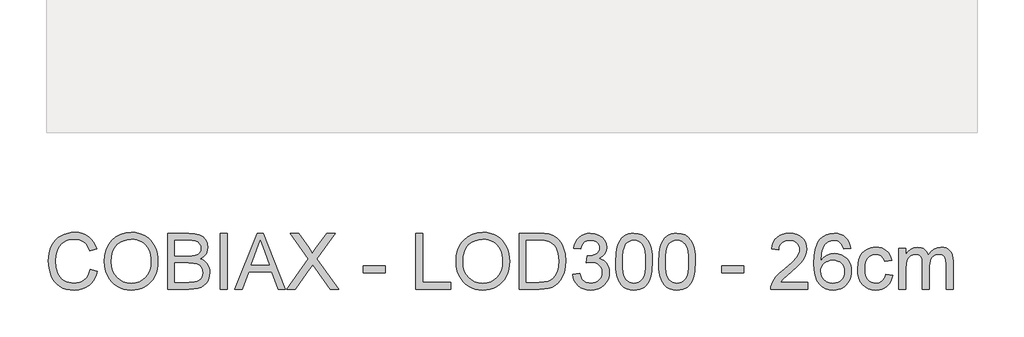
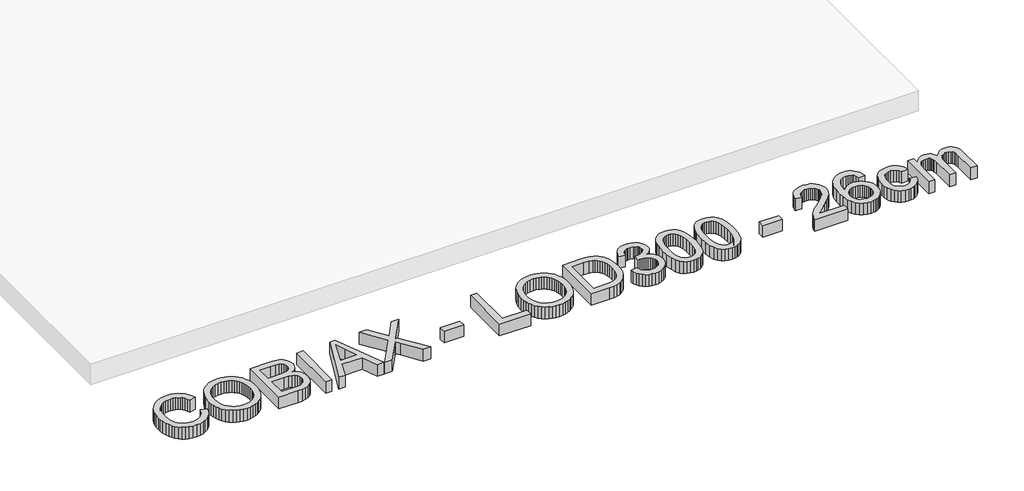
# One storey, part 13 of 18: 1 proxy.
"""IFC4 building model written with IfcOpenShell, lengths in millimetres."""

from ifc_helpers import new_model, si_unit, origin, origin_with_axes, place, context, project, spatial, polyline, outline, extrude, element, save

model = new_model("IFC4")

# Units and contexts
model_context = context("Model", 3, world=origin())
ifc_project = project(units=[si_unit("LENGTHUNIT", "METRE", prefix="MILLI")], contexts=[model_context])

# Site, building, storey
site = spatial("IfcSite", under=ifc_project)
building = spatial("IfcBuilding", under=site)
storey = spatial("IfcBuildingStorey", under=building, Name="COBIAX Slabs", Elevation=0.0)

# Proxy
placement = place(None, origin())
element("IfcBuildingElementProxy", 1, Name="600mm Arial", ObjectType="600mm Arial", at=placement, inside=storey, context=model_context, shape_type="SweptSolid", body=[
    extrude(outline(polyline([(9798.2153953, -6620.9127725), (9873.5576279, -6640.3369419), (9858.64921, -6687.1913125), (9838.7927794, -6728.13198), (9813.9883358, -6763.1589445), (9784.2358795, -6792.2722059), (9750.2067949, -6815.1590645), (9712.5724668, -6831.5068207), (9671.3328952, -6841.3154744), (9626.4880799, -6844.5850256), (9580.5442173, -6842.1110192), (9539.097712, -6834.6889999), (9502.1485641, -6822.3189678), (9469.6967736, -6805.0009229), (9441.2962836, -6782.9923826), (9416.5010371, -6756.5508642), (9395.3110342, -6725.6763677), (9377.7262748, -6690.3688932), (9363.9169044, -6652.155151), (9354.0530684, -6612.5618512), (9348.1347668, -6571.588994), (9346.1619996, -6529.2365793), (9348.3922842, -6483.7939559), (9355.083138, -6441.3495707), (9366.234561, -6401.9034238), (9381.8465531, -6365.4555151), (9401.5696266, -6332.6082514), (9425.0542935, -6303.9640396), (9452.3005538, -6279.5228795), (9483.3084074, -6259.2847713), (9517.0247923, -6243.4152617), (9552.3966461, -6232.0798977), (9589.4239689, -6225.2786793), (9628.1067607, -6223.0116065), (9671.1995379, -6225.9454655), (9710.7146627, -6234.7470422), (9746.6521351, -6249.4163368), (9779.0119551, -6269.9533491), (9807.2606938, -6295.8154534), (9830.8649224, -6326.4600236), (9849.8246407, -6361.8870597), (9864.1398488, -6402.0965618), (9788.7976162, -6420.0492032), (9776.9334219, -6390.420907), (9762.6779946, -6365.1060272), (9746.0313343, -6344.1045638), (9726.993441, -6327.4165168), (9705.4539502, -6314.7015953), (9681.3024972, -6305.6195086), (9654.5390821, -6300.1702565), (9625.1637048, -6298.3538392), (9591.3645465, -6300.3679931), (9560.4532618, -6306.4104549), (9532.4298508, -6316.4812245), (9507.2943135, -6330.5803019), (9485.3639481, -6348.0730908), (9466.9560527, -6368.3249946), (9452.0706275, -6391.3360134), (9440.7076724, -6417.1061472), (9426.3050923, -6472.2516583), (9421.5042322, -6529.0894265), (9427.1880091, -6598.6927), (9434.2927301, -6629.9626696), (9444.2393395, -6658.8781944), (9457.1887858, -6684.8644589), (9473.3020171, -6707.3466473), (9492.5790337, -6726.3247597), (9515.0198354, -6741.7987961), (9539.5345719, -6753.8055448), (9565.0333926, -6762.3817938), (9591.5162978, -6767.5275432), (9618.9832872, -6769.242793), (9651.7385804, -6766.9067423), (9681.8727143, -6759.8985903), (9709.385689, -6748.218337), (9734.2775045, -6731.8659823), (9755.9595496, -6710.9151027), (9773.8432131, -6685.4392745), (9787.928495, -6655.4384978), (9798.2153953, -6620.9127725)])), origin_with_axes(), (0.0, 0.0, 1.0), 150.0),
    extrude(outline(polyline([(9948.8998605, -6541.7445672), (9953.9214497, -6471.0468447), (9968.9862175, -6408.4609203), (9994.0941636, -6353.9867939), (10010.4143286, -6329.7916549), (10029.2452883, -6307.6244654), (10072.3334669, -6270.6063397), (10121.2525753, -6244.1648213), (10176.0026132, -6228.2999102), (10236.5835807, -6223.0116065), (10277.1333737, -6225.49481), (10315.6414215, -6232.9444204), (10352.1077243, -6245.3604378), (10386.532282, -6262.742862), (10417.9494044, -6284.5674614), (10445.3934012, -6310.310004), (10468.8642725, -6339.9704899), (10488.3620182, -6373.548919), (10503.6843033, -6410.2819362), (10514.6287927, -6449.4061864), (10521.1954863, -6490.9216695), (10523.3843842, -6534.8283857), (10521.0805232, -6579.3145159), (10514.1689402, -6621.3910191), (10502.6496352, -6661.0578953), (10486.5226083, -6698.3151443), (10466.1695369, -6732.178682), (10441.9720986, -6761.6644239), (10413.9302936, -6786.7723701), (10382.0441216, -6807.5025205), (10347.5689802, -6823.7261165), (10311.7602665, -6835.3143993), (10274.6179805, -6842.267369), (10236.1421223, -6844.5850256), (10194.8841566, -6842.0236472), (10155.870271, -6834.339512), (10119.1004656, -6821.5326201), (10084.5747403, -6803.6029713), (10053.1944061, -6781.2449431), (10025.8607739, -6755.1529126), (10002.5738436, -6725.3268798), (9983.3336153, -6691.7668448), (9968.2688476, -6655.8201753), (9957.5082992, -6618.8342393), (9951.0519702, -6580.8090365), (9948.8998605, -6541.7445672)]), holes=[polyline([(10024.2420931, -6542.4803312), (10028.0082851, -6592.4295091), (10039.3068608, -6636.7684865), (10058.1378205, -6675.4972636), (10084.5011639, -6708.6158402), (10116.5482842, -6735.140132), (10152.4305743, -6754.0860548), (10192.1480343, -6765.4536084), (10235.700664, -6769.242793), (10279.9982547, -6765.4168202), (10320.1847641, -6753.938902), (10356.2601923, -6734.8090382), (10388.2245392, -6708.027229), (10414.3947446, -6674.2096766), (10433.0877485, -6633.9725834), (10444.3035508, -6587.3159493), (10448.0421516, -6534.2397745), (10446.4418649, -6499.7600345), (10441.6410049, -6467.5427687), (10433.6395715, -6437.5879773), (10422.4375647, -6409.8956601), (10408.1591448, -6384.8291007), (10390.9284718, -6362.7515824), (10370.7455459, -6343.6631054), (10347.6103669, -6327.5636696), (10322.2403048, -6314.7843688), (10295.3527295, -6305.6562968), (10266.9476409, -6300.1794536), (10237.0250391, -6298.3538392), (10194.9853241, -6301.8717107), (10155.9806356, -6312.4253255), (10120.0109735, -6330.0146834), (10087.0763379, -6354.6397844), (10059.5863558, -6387.4870481), (10039.9506543, -6429.7428937), (10028.1692334, -6481.4073214), (10024.2420931, -6542.4803312)])]), origin_with_axes(), (0.0, 0.0, 1.0), 150.0),
    extrude(outline(polyline([(10626.979954, -6835.1672465), (10626.979954, -6232.4293856), (10856.9797774, -6232.4293856), (10920.2370865, -6236.8623637), (10969.6252443, -6250.1612978), (10989.7024042, -6260.2182718), (11007.4803016, -6272.6572818), (11022.9589366, -6287.4783277), (11036.1383091, -6304.6814095), (11054.1829209, -6342.3525258), (11060.1977915, -6381.7894757), (11055.1394141, -6418.0810345), (11039.9642818, -6452.2020895), (11014.56203, -6482.0557135), (10978.8222942, -6505.5449788), (11001.562, -6515.2386694), (11021.5149998, -6527.8386278), (11038.6812934, -6543.3448538), (11053.0608808, -6561.7573477), (11064.423836, -6582.5150893), (11072.5402325, -6605.0570585), (11077.4100704, -6629.3832555), (11079.0333497, -6655.4936801), (11074.6003717, -6697.524198), (11061.3014375, -6736.5012954), (11041.4542039, -6769.6474632), (11017.3763273, -6794.1851923), (10987.8905854, -6811.9538926), (10951.8197558, -6824.7929743), (10907.986616, -6832.5736785), (10855.2139438, -6835.1672465), (10626.979954, -6835.1672465)]), holes=[polyline([(10702.3221866, -6477.2916416), (10839.9100528, -6477.2916416), (10888.0290178, -6475.6729608), (10920.2554806, -6470.8169185), (10948.3800591, -6459.6516999), (10968.5951747, -6442.9314633), (10980.7904629, -6420.9137259), (10984.8555589, -6393.8560051), (10981.0663744, -6367.5892307), (10969.6988207, -6344.7069706), (10951.2679328, -6326.8462997), (10926.2887453, -6315.6442929), (10887.9554414, -6309.7397869), (10829.4622042, -6307.7716182), (10702.3221866, -6307.7716182), (10702.3221866, -6477.2916416)]), polyline([(10702.3221866, -6759.8250139), (10856.8326246, -6759.8250139), (10912.7506879, -6756.8819579), (10938.7047626, -6750.3520525), (10960.0603125, -6740.474421), (10977.4243426, -6726.3293582), (10991.4038584, -6706.9971594), (11000.6193024, -6683.3423471), (11003.6911171, -6656.2294441), (11000.0858735, -6624.7387453), (10989.2701429, -6597.6626304), (10970.3794024, -6576.4910216), (10942.5491295, -6562.7138409), (10903.1305737, -6555.1538659), (10849.4749847, -6552.6338742), (10702.3221866, -6552.6338742), (10702.3221866, -6759.8250139)])]), origin_with_axes(), (0.0, 0.0, 1.0), 150.0),
    extrude(outline(polyline([(11192.0466986, -6835.1672465), (11192.0466986, -6232.4293856), (11267.3889312, -6232.4293856), (11267.3889312, -6835.1672465), (11192.0466986, -6835.1672465)])), origin_with_axes(), (0.0, 0.0, 1.0), 150.0),
    extrude(outline(polyline([(11347.8815118, -6835.1672465), (11588.4763366, -6232.4293856), (11652.6349566, -6232.4293856), (11893.2297814, -6835.1672465), (11813.6201177, -6835.1672465), (11744.6054554, -6646.811665), (11496.358685, -6646.811665), (11427.4911755, -6835.1672465), (11347.8815118, -6835.1672465)]), holes=[polyline([(11524.0234111, -6571.4694324), (11717.0878821, -6571.4694324), (11662.7884996, -6423.2865647), (11620.5556466, -6307.7716182), (11583.0316831, -6410.3371185), (11524.0234111, -6571.4694324)])]), origin_with_axes(), (0.0, 0.0, 1.0), 150.0),
    extrude(outline(polyline([(11907.7979084, -6835.1672465), (12140.1521766, -6506.7222012), (11945.4690247, -6232.4293856), (12035.8208428, -6232.4293856), (12145.4496773, -6386.7926708), (12171.6060872, -6425.8985269), (12182.3850296, -6446.9781652), (12225.6479523, -6385.7626012), (12334.0995644, -6232.4293856), (12425.7757576, -6232.4293856), (12231.0926058, -6507.605118), (12463.4468739, -6835.1672465), (12373.0950559, -6835.1672465), (12218.2903124, -6616.7924942), (12186.0638496, -6571.4694324), (12150.6000252, -6621.2070781), (11999.4741016, -6835.1672465), (11907.7979084, -6835.1672465)])), origin_with_axes(), (0.0, 0.0, 1.0), 150.0),
    extrude(outline(polyline([(12727.1446881, -6656.2294441), (12727.1446881, -6580.8872115), (12962.589165, -6580.8872115), (12962.589165, -6656.2294441), (12727.1446881, -6656.2294441)])), origin_with_axes(), (0.0, 0.0, 1.0), 150.0),
    extrude(outline(polyline([(13292.2114327, -6835.1672465), (13292.2114327, -6232.4293856), (13367.5536653, -6232.4293856), (13367.5536653, -6759.8250139), (13668.9225957, -6759.8250139), (13668.9225957, -6835.1672465), (13292.2114327, -6835.1672465)])), origin_with_axes(), (0.0, 0.0, 1.0), 150.0),
    extrude(outline(polyline([(13725.4292702, -6541.7445672), (13730.4508594, -6471.0468447), (13745.5156271, -6408.4609203), (13770.6235733, -6353.9867939), (13786.9437383, -6329.7916549), (13805.7746979, -6307.6244654), (13848.8628766, -6270.6063397), (13897.7819849, -6244.1648213), (13952.5320229, -6228.2999102), (14013.1129904, -6223.0116065), (14053.6627833, -6225.49481), (14092.1708312, -6232.9444204), (14128.637134, -6245.3604378), (14163.0616917, -6262.742862), (14194.4788141, -6284.5674614), (14221.9228109, -6310.310004), (14245.3936822, -6339.9704899), (14264.8914279, -6373.548919), (14280.213713, -6410.2819362), (14291.1582024, -6449.4061864), (14297.724896, -6490.9216695), (14299.9137939, -6534.8283857), (14297.6099329, -6579.3145159), (14290.6983499, -6621.3910191), (14279.1790449, -6661.0578953), (14263.052018, -6698.3151443), (14242.6989466, -6732.178682), (14218.5015083, -6761.6644239), (14190.4597033, -6786.7723701), (14158.5735313, -6807.5025205), (14124.0983898, -6823.7261165), (14088.2896761, -6835.3143993), (14051.1473902, -6842.267369), (14012.671532, -6844.5850256), (13971.4135663, -6842.0236472), (13932.3996807, -6834.339512), (13895.6298753, -6821.5326201), (13861.10415, -6803.6029713), (13829.7238158, -6781.2449431), (13802.3901836, -6755.1529126), (13779.1032533, -6725.3268798), (13759.8630249, -6691.7668448), (13744.7982572, -6655.8201753), (13734.0377089, -6618.8342393), (13727.5813799, -6580.8090365), (13725.4292702, -6541.7445672)]), holes=[polyline([(13800.7715028, -6542.4803312), (13804.5376947, -6592.4295091), (13815.8362705, -6636.7684865), (13834.6672301, -6675.4972636), (13861.0305736, -6708.6158402), (13893.0776939, -6735.140132), (13928.959984, -6754.0860548), (13968.6774439, -6765.4536084), (14012.2300736, -6769.242793), (14056.5276644, -6765.4168202), (14096.7141738, -6753.938902), (14132.789602, -6734.8090382), (14164.7539488, -6708.027229), (14190.9241543, -6674.2096766), (14209.6171582, -6633.9725834), (14220.8329605, -6587.3159493), (14224.5715613, -6534.2397745), (14222.9712746, -6499.7600345), (14218.1704145, -6467.5427687), (14210.1689811, -6437.5879773), (14198.9669744, -6409.8956601), (14184.6885545, -6384.8291007), (14167.4578815, -6362.7515824), (14147.2749555, -6343.6631054), (14124.1397766, -6327.5636696), (14098.7697145, -6314.7843688), (14071.8821392, -6305.6562968), (14043.4770506, -6300.1794536), (14013.5544488, -6298.3538392), (13971.5147338, -6301.8717107), (13932.5100453, -6312.4253255), (13896.5403832, -6330.0146834), (13863.6057476, -6354.6397844), (13836.1157655, -6387.4870481), (13816.480064, -6429.7428937), (13804.6986431, -6481.4073214), (13800.7715028, -6542.4803312)])]), origin_with_axes(), (0.0, 0.0, 1.0), 150.0),
    extrude(outline(polyline([(14403.5093637, -6835.1672465), (14403.5093637, -6232.4293856), (14611.4362674, -6232.4293856), (14673.5715364, -6234.5998894), (14719.0049628, -6241.1114007), (14767.0503513, -6257.8500315), (14807.5909472, -6284.2271705), (14829.9305814, -6305.7850555), (14849.2719773, -6330.1388435), (14865.6151349, -6357.2885348), (14878.9600543, -6387.2341292), (14889.3251295, -6419.6997153), (14896.7287546, -6454.4093815), (14902.6516548, -6530.5609545), (14898.641741, -6595.2530034), (14886.6119998, -6652.1827421), (14868.2914764, -6700.651195), (14845.4092163, -6739.9593862), (14819.0688655, -6770.9902325), (14790.3740698, -6794.6266507), (14757.4302372, -6812.1562277), (14718.3427752, -6824.8665507), (14673.0381075, -6832.5920726), (14621.4426577, -6835.1672465), (14403.5093637, -6835.1672465)]), holes=[polyline([(14478.8515963, -6759.8250139), (14612.1720314, -6759.8250139), (14667.3175425, -6757.1026871), (14709.1457253, -6748.9357069), (14740.7100005, -6735.8023196), (14765.0637886, -6718.1807721), (14791.2385925, -6685.5680332), (14810.9018852, -6643.3535742), (14823.2075379, -6591.3534542), (14827.3094222, -6529.3837321), (14825.2998668, -6485.6425629), (14819.2712006, -6447.2724708), (14809.2234236, -6414.2734558), (14795.1565358, -6386.645518), (14778.2109714, -6363.7632579), (14759.5271645, -6345.0012761), (14739.1051153, -6330.3595727), (14716.9448236, -6319.8381477), (14673.6083246, -6310.7882506), (14610.1118922, -6307.7716182), (14478.8515963, -6307.7716182), (14478.8515963, -6759.8250139)])]), origin_with_axes(), (0.0, 0.0, 1.0), 150.0),
    extrude(outline(polyline([(14977.9938874, -6675.0650022), (15053.33612, -6665.6472231), (15070.2035095, -6712.9936359), (15081.5756616, -6730.900292), (15094.9067854, -6744.9625813), (15110.5003835, -6755.5851739), (15128.6599585, -6763.1727401), (15149.3855104, -6767.7252798), (15172.6770392, -6769.242793), (15199.9738833, -6767.1550627), (15224.3276713, -6760.8918717), (15245.7384035, -6750.4532201), (15264.2060796, -6735.8391078), (15279.0777093, -6718.1439839), (15289.7003019, -6698.4622971), (15296.0738575, -6676.7940476), (15298.198376, -6653.1392353), (15296.0922516, -6630.6110616), (15289.7738783, -6610.115436), (15279.2432562, -6591.6523583), (15264.5003852, -6575.2218287), (15246.5109557, -6561.7343551), (15226.2406577, -6552.1004453), (15203.6894914, -6546.3200995), (15178.8574567, -6544.3933175), (15155.0554917, -6546.4534567), (15126.0296022, -6552.6338742), (15134.4173117, -6477.2916416), (15146.4838412, -6478.1745584), (15191.622962, -6472.7666931), (15231.9796168, -6456.5430971), (15248.5894889, -6444.2742325), (15260.4536833, -6429.0991002), (15267.5721999, -6411.0177002), (15269.9450388, -6390.0300324), (15268.2251904, -6372.9924975), (15263.0656454, -6357.4908699), (15254.4664038, -6343.5251496), (15242.4274655, -6331.0953367), (15227.6753975, -6320.8912099), (15210.9367667, -6313.6025479), (15171.4998168, -6307.7716182), (15150.8432428, -6309.2431462), (15131.9892906, -6313.6577302), (15114.9379601, -6321.0153701), (15099.6892514, -6331.3160659), (15086.6202435, -6344.5598178), (15076.1080155, -6360.7466255), (15068.1525673, -6379.8764893), (15062.7538991, -6401.949409), (14987.4116665, -6392.5316299), (14996.3420019, -6356.5619678), (15009.5949508, -6324.878131), (15027.1705131, -6297.4801194), (15049.0686888, -6274.3679331), (15074.5996993, -6256.0198186), (15103.0737657, -6242.9140225), (15134.4908881, -6235.0505448), (15168.8510665, -6232.4293856), (15216.2158734, -6237.5981277), (15259.7179193, -6253.1043538), (15296.3957542, -6277.5685064), (15323.2879281, -6309.6110282), (15339.7874355, -6346.5279864), (15345.2872714, -6385.6154484), (15340.063347, -6422.0357659), (15324.391574, -6455.0715691), (15298.4926816, -6483.2145417), (15262.5873988, -6504.9563677), (15287.695345, -6512.8106482), (15309.7498706, -6524.012655), (15328.7509757, -6538.5623879), (15344.6986602, -6556.459847), (15357.3170126, -6577.2635738), (15366.3301215, -6600.53211), (15371.7379868, -6626.2654556), (15373.5406086, -6654.4636105), (15369.935365, -6692.6865498), (15359.1196344, -6727.8928567), (15341.0934166, -6760.0825313), (15315.8567117, -6789.2555735), (15285.110974, -6813.4622088), (15250.5576576, -6830.7526626), (15212.1967626, -6841.1269348), (15170.0282889, -6844.5850256), (15131.9157142, -6841.6327726), (15097.1876538, -6832.7760136), (15065.8441078, -6818.0147485), (15037.8850762, -6797.3489774), (15014.4417961, -6771.9927109), (14996.6455045, -6743.1599595), (14984.4962016, -6710.8507233), (14977.9938874, -6675.0650022)])), origin_with_axes(), (0.0, 0.0, 1.0), 150.0),
    extrude(outline(polyline([(15439.4650621, -6538.6543584), (15445.0016862, -6442.1773052), (15451.9224662, -6401.2642288), (15461.6115582, -6365.2347859), (15474.0275756, -6333.7946709), (15489.1291315, -6306.6495782), (15506.9162259, -6283.7995077), (15527.388859, -6265.2444596), (15550.6160084, -6250.8878647), (15576.6666522, -6240.6331541), (15605.5407903, -6234.4803277), (15637.2384227, -6232.4293856), (15683.6651305, -6237.285428), (15725.235796, -6251.853555), (15760.0006445, -6275.5635496), (15786.0099016, -6307.8451946), (15805.6548001, -6348.4225787), (15821.3265731, -6397.0197903), (15831.5904808, -6458.731995), (15835.0117833, -6538.6543584), (15829.5303416, -6634.5795887), (15822.6785395, -6675.3547093), (15813.0860164, -6711.3381669), (15800.7665681, -6742.7920775), (15785.7339901, -6769.978557), (15767.9882823, -6792.8976053), (15747.5294449, -6811.5492224), (15724.2747043, -6826.0023863), (15698.141287, -6836.3260748), (15669.1291932, -6842.5202879), (15637.2384227, -6844.5850256), (15595.7413337, -6840.9981761), (15558.9531342, -6830.2376278), (15526.8738242, -6812.3033805), (15499.5034037, -6787.1954344), (15473.2366293, -6741.8079932), (15454.4746475, -6685.2553335), (15443.2174585, -6617.5374552), (15439.4650621, -6538.6543584)]), holes=[polyline([(15514.8072947, -6538.5072056), (15517.0145867, -6604.0039963), (15523.6364626, -6657.0203904), (15534.6729225, -6697.5563877), (15550.1239663, -6725.6119884), (15568.8123716, -6744.7004654), (15589.5609162, -6758.3350918), (15612.3695999, -6766.5158677), (15637.2384227, -6769.242793), (15662.1072456, -6766.5066706), (15684.9159293, -6758.2983036), (15705.6644738, -6744.6176919), (15724.3528792, -6725.4648356), (15739.803923, -6697.3632497), (15750.8403828, -6656.8364494), (15757.4622588, -6603.8844347), (15759.6695507, -6538.5072056), (15757.5358352, -6474.7440588), (15751.1346884, -6422.6611653), (15740.4661106, -6382.2585252), (15725.5301016, -6353.5361384), (15707.1543959, -6333.5141608), (15686.1667281, -6319.2127483), (15662.5670981, -6310.6319007), (15636.3555059, -6307.7716182), (15611.6154418, -6310.2916099), (15589.1930342, -6317.8515849), (15569.0882831, -6330.4515432), (15551.3011887, -6348.0914849), (15535.3351101, -6379.3614545), (15523.9307682, -6421.5207311), (15517.0881631, -6474.5693149), (15514.8072947, -6538.5072056)])]), origin_with_axes(), (0.0, 0.0, 1.0), 150.0),
    extrude(outline(polyline([(15900.9362369, -6538.6543584), (15906.4728609, -6442.1773052), (15913.3936409, -6401.2642288), (15923.082733, -6365.2347859), (15935.4987503, -6333.7946709), (15950.6003062, -6306.6495782), (15968.3874007, -6283.7995077), (15988.8600337, -6265.2444596), (16012.0871832, -6250.8878647), (16038.137827, -6240.6331541), (16067.0119651, -6234.4803277), (16098.7095975, -6232.4293856), (16145.1363053, -6237.285428), (16186.7069707, -6251.853555), (16221.4718193, -6275.5635496), (16247.4810763, -6307.8451946), (16267.1259749, -6348.4225787), (16282.7977479, -6397.0197903), (16293.0616555, -6458.731995), (16296.4829581, -6538.6543584), (16291.0015164, -6634.5795887), (16284.1497142, -6675.3547093), (16274.5571912, -6711.3381669), (16262.2377429, -6742.7920775), (16247.2051648, -6769.978557), (16229.4594571, -6792.8976053), (16209.0006196, -6811.5492224), (16185.745879, -6826.0023863), (16159.6124618, -6836.3260748), (16130.6003679, -6842.5202879), (16098.7095975, -6844.5850256), (16057.2125084, -6840.9981761), (16020.4243089, -6830.2376278), (15988.3449989, -6812.3033805), (15960.9745785, -6787.1954344), (15934.707804, -6741.8079932), (15915.9458223, -6685.2553335), (15904.6886332, -6617.5374552), (15900.9362369, -6538.6543584)]), holes=[polyline([(15976.2784695, -6538.5072056), (15978.4857615, -6604.0039963), (15985.1076374, -6657.0203904), (15996.1440972, -6697.5563877), (16011.595141, -6725.6119884), (16030.2835464, -6744.7004654), (16051.0320909, -6758.3350918), (16073.8407746, -6766.5158677), (16098.7095975, -6769.242793), (16123.5784204, -6766.5066706), (16146.3871041, -6758.2983036), (16167.1356486, -6744.6176919), (16185.8240539, -6725.4648356), (16201.2750977, -6697.3632497), (16212.3115576, -6656.8364494), (16218.9334335, -6603.8844347), (16221.1407255, -6538.5072056), (16219.0070099, -6474.7440588), (16212.6058632, -6422.6611653), (16201.9372853, -6382.2585252), (16187.0012763, -6353.5361384), (16168.6255707, -6333.5141608), (16147.6379028, -6319.2127483), (16124.0382729, -6310.6319007), (16097.8266807, -6307.7716182), (16073.0866165, -6310.2916099), (16050.6642089, -6317.8515849), (16030.5594579, -6330.4515432), (16012.7723634, -6348.0914849), (15996.8062848, -6379.3614545), (15985.401943, -6421.5207311), (15978.5593379, -6474.5693149), (15976.2784695, -6538.5072056)])]), origin_with_axes(), (0.0, 0.0, 1.0), 150.0),
    extrude(outline(polyline([(16579.0163304, -6656.2294441), (16579.0163304, -6580.8872115), (16814.4608073, -6580.8872115), (16814.4608073, -6656.2294441), (16579.0163304, -6656.2294441)])), origin_with_axes(), (0.0, 0.0, 1.0), 150.0),
    extrude(outline(polyline([(17501.9586799, -6759.8250139), (17501.9586799, -6835.1672465), (17106.4119587, -6835.1672465), (17108.0674277, -6808.6429547), (17114.5053626, -6783.2223088), (17133.0834033, -6742.6265306), (17160.2698828, -6703.2447631), (17199.5964681, -6662.0235855), (17254.5948263, -6615.9095774), (17335.8967473, -6543.6943417), (17384.6778998, -6490.3882406), (17398.905736, -6468.6096265), (17409.0684761, -6447.125318), (17415.1661202, -6425.9353151), (17417.1986682, -6405.0396178), (17415.2810833, -6385.3809236), (17409.5283286, -6367.3133192), (17399.9404041, -6350.8368043), (17386.5173098, -6335.9513791), (17370.0040067, -6323.6227337), (17351.145456, -6314.8165584), (17329.9416575, -6309.5328533), (17306.3926113, -6307.7716182), (17281.5835692, -6309.4914666), (17259.3956864, -6314.6510115), (17239.8289627, -6323.2502532), (17222.8833983, -6335.2891915), (17209.1751955, -6350.3631562), (17199.3205566, -6368.0674772), (17193.3194815, -6388.4021545), (17191.1719704, -6411.3671881), (17115.8297378, -6401.949409), (17122.3090594, -6363.0550851), (17134.0950788, -6329.0719858), (17151.187796, -6300.0001111), (17173.587211, -6275.8394611), (17200.778289, -6256.8475531), (17232.2459951, -6243.2819045), (17267.9903295, -6235.1425153), (17308.011292, -6232.4293856), (17348.3909395, -6235.446018), (17384.3284119, -6244.4959151), (17415.8237092, -6259.5790769), (17442.8768315, -6280.6955034), (17464.6048618, -6306.2816962), (17480.1248835, -6334.7741567), (17489.4368965, -6366.172885), (17492.5409008, -6400.477881), (17489.1931747, -6436.5119224), (17479.1499962, -6471.9205645), (17461.3261135, -6507.9362118), (17434.6362748, -6545.7912691), (17392.090722, -6590.9855722), (17326.6996974, -6649.018957), (17240.0266993, -6721.49171), (17206.034403, -6759.8250139), (17501.9586799, -6759.8250139)])), origin_with_axes(), (0.0, 0.0, 1.0), 150.0),
    extrude(outline(polyline([(17963.4298546, -6392.5316299), (17888.087622, -6401.949409), (17875.9475162, -6364.6093865), (17859.5399792, -6339.1151642), (17843.3439744, -6325.4023629), (17825.3637418, -6315.6075047), (17805.5992817, -6309.7305899), (17784.0505938, -6307.7716182), (17749.0282278, -6312.333355), (17716.0660011, -6326.0185652), (17687.7574816, -6354.8421195), (17664.6360982, -6394.5181927), (17655.5999966, -6419.8238754), (17649.0195075, -6450.6385911), (17643.225366, -6528.7951209), (17673.4468719, -6493.5336317), (17709.6648544, -6468.6832029), (17749.8559623, -6453.949529), (17791.9968449, -6449.0383044), (17828.1964332, -6452.3952276), (17861.6001184, -6462.4659972), (17892.2079004, -6479.2506132), (17920.0197792, -6502.7490757), (17943.1319656, -6531.563433), (17959.6406701, -6564.2957335), (17969.5458928, -6600.9459772), (17972.8476337, -6641.5141643), (17971.2933323, -6668.9811537), (17966.630428, -6695.4640589), (17958.8589208, -6720.9628796), (17947.9788108, -6745.4776161), (17934.3763741, -6768.0931618), (17918.4378866, -6787.8944101), (17900.1633485, -6804.8813613), (17879.5527597, -6819.0540151), (17857.0475787, -6830.2238322), (17833.0892637, -6838.202273), (17807.6778149, -6842.9893374), (17780.8132322, -6844.5850256), (17735.8994391, -6840.3543827), (17695.3358507, -6827.6624538), (17659.1224668, -6806.5092391), (17627.2592874, -6776.8947385), (17601.2822201, -6737.5681532), (17582.7271719, -6687.2786845), (17571.5941431, -6626.0263323), (17567.8831334, -6553.8110966), (17572.0034118, -6472.8494665), (17584.3642468, -6403.7520308), (17604.9656385, -6346.5187894), (17618.3565432, -6322.3512416), (17633.807587, -6301.1497423), (17665.0683595, -6271.0845863), (17701.3139331, -6249.6094748), (17742.5443077, -6236.7244079), (17788.7594833, -6232.4293856), (17823.4599525, -6235.087333), (17854.8678779, -6243.0611753), (17882.9832593, -6256.3509124), (17907.806097, -6274.9565443), (17928.6650061, -6298.2526716), (17944.8886021, -6325.613895), (17956.4768849, -6357.0402144), (17963.4298546, -6392.5316299)]), holes=[polyline([(17643.225366, -6640.3369419), (17647.5847677, -6673.7222329), (17660.6629726, -6705.5992078), (17680.9700587, -6733.0064165), (17707.016104, -6752.9824088), (17738.4516205, -6765.1776969), (17774.9271203, -6769.242793), (17801.1157198, -6767.1366686), (17824.646372, -6760.8182953), (17845.5190767, -6750.2876732), (17863.7338339, -6735.5448022), (17878.5088946, -6717.1874907), (17889.0625093, -6695.8135467), (17895.3946782, -6671.4229705), (17897.5054011, -6644.0157618), (17895.4222693, -6617.6800095), (17889.1728739, -6594.2965102), (17878.7572149, -6573.8652639), (17864.1752923, -6556.3862706), (17845.9053528, -6542.3837621), (17824.4256428, -6532.3819704), (17799.7361624, -6526.3808953), (17771.8369115, -6524.380537), (17745.9977999, -6526.3808953), (17722.1912363, -6532.3819704), (17700.4172207, -6542.3837621), (17680.6757531, -6556.3862706), (17664.2912088, -6573.6353376), (17652.5879628, -6593.3768052), (17645.5660152, -6615.6106733), (17643.225366, -6640.3369419)])]), origin_with_axes(), (0.0, 0.0, 1.0), 150.0),
    extrude(outline(polyline([(18340.1410177, -6675.0650022), (18415.4832503, -6684.4827813), (18407.2886789, -6720.0339776), (18394.4771884, -6751.4924867), (18377.0487789, -6778.8583086), (18355.0034503, -6802.1314434), (18329.2701047, -6820.7048856), (18300.7776442, -6833.97163), (18269.5260687, -6841.9316767), (18235.5153783, -6844.5850256), (18193.2595326, -6840.883213), (18155.3722856, -6829.7777753), (18121.8536373, -6811.2687124), (18092.7035877, -6785.3560244), (18069.1085563, -6752.5271548), (18052.2549624, -6713.2695474), (18042.142806, -6667.5832021), (18038.7720873, -6615.468119), (18044.5294405, -6548.4216254), (18051.726132, -6518.2507033), (18061.8015001, -6490.3146642), (18074.8245228, -6465.1745284), (18090.8641778, -6443.3913158), (18109.9204651, -6424.9650263), (18131.9933848, -6409.8956601), (18156.085057, -6398.1786186), (18181.1976017, -6389.8093032), (18207.3310189, -6384.7877139), (18234.4853087, -6383.1138508), (18267.9119865, -6385.4131133), (18298.1472879, -6392.3109007), (18325.1912131, -6403.8072131), (18349.043762, -6419.9020504), (18369.3002643, -6440.2275306), (18385.55605, -6464.4157718), (18397.811119, -6492.4667739), (18406.0654712, -6524.380537), (18330.7232386, -6533.7983161), (18317.0564225, -6500.9280598), (18295.7744491, -6477.365218), (18268.0545407, -6463.1833671), (18235.0739199, -6458.4560835), (18209.4739315, -6460.7829371), (18186.3847378, -6467.7634979), (18165.8063387, -6479.397766), (18147.7387342, -6495.6857414), (18133.0280529, -6517.004503), (18122.5204235, -6543.7311299), (18116.2158458, -6575.8656222), (18114.1143199, -6613.4079798), (18116.1698605, -6651.515956), (18122.3364825, -6684.0229288), (18132.6141857, -6710.9288982), (18147.0029702, -6732.2338643), (18164.7118898, -6748.4252706), (18184.949998, -6759.9905608), (18207.717295, -6766.9297349), (18233.0137807, -6769.242793), (18272.0276663, -6763.4670457), (18288.8996543, -6756.2473615), (18304.0150058, -6746.1398037), (18316.9506564, -6733.0340076), (18327.283542, -6716.8196087), (18335.0136624, -6697.4966069), (18340.1410177, -6675.0650022)])), origin_with_axes(), (0.0, 0.0, 1.0), 150.0),
    extrude(outline(polyline([(18481.4077038, -6835.1672465), (18481.4077038, -6392.5316299), (18556.7499365, -6392.5316299), (18556.7499365, -6465.372265), (18579.4114674, -6431.9133975), (18608.5477214, -6405.7018054), (18643.1654171, -6388.7608395), (18682.2712732, -6383.1138508), (18724.1730325, -6388.8712041), (18742.0061122, -6396.0678956), (18757.7606586, -6406.1432637), (18782.8502107, -6433.7895957), (18799.2577477, -6470.6697657), (18826.7201386, -6432.364053), (18858.0452905, -6405.0028296), (18893.2332033, -6388.5860955), (18932.2838771, -6383.1138508), (18962.4456022, -6385.3901207), (18988.9193103, -6392.2189302), (19011.7050014, -6403.6002795), (19030.8026754, -6419.5341684), (19045.8996328, -6440.204538), (19056.6831738, -6465.7953293), (19063.1532984, -6496.3065422), (19065.3100066, -6531.7381769), (19065.3100066, -6835.1672465), (18989.967774, -6835.1672465), (18989.967774, -6564.1117925), (18988.2203345, -6526.5326467), (18982.9780161, -6501.2039713), (18973.1555668, -6483.8583352), (18957.6677348, -6470.2283073), (18937.7469248, -6461.3991394), (18914.6255414, -6458.4560835), (18893.2745901, -6460.3414787), (18873.809034, -6465.9976644), (18856.2288732, -6475.4246405), (18840.5341075, -6488.6224071), (18827.626048, -6505.9772402), (18818.4060055, -6527.875416), (18812.87398, -6554.3169344), (18811.0299715, -6585.3017954), (18811.0299715, -6835.1672465), (18735.6877389, -6835.1672465), (18735.6877389, -6555.724083), (18731.3283373, -6513.1233479), (18725.8790852, -6496.4031113), (18718.2501323, -6482.7362951), (18708.137976, -6472.1137025), (18695.2391135, -6464.5261364), (18679.553545, -6459.9735967), (18661.0812703, -6458.4560835), (18632.0553809, -6462.5027854), (18605.3103598, -6474.6428912), (18583.2374401, -6494.5820954), (18568.2278547, -6522.0260922), (18559.619416, -6560.1018787), (18556.7499365, -6611.9364518), (18556.7499365, -6835.1672465), (18481.4077038, -6835.1672465)])), origin_with_axes(), (0.0, 0.0, 1.0), 150.0),
])

save(model, "model.ifc")
